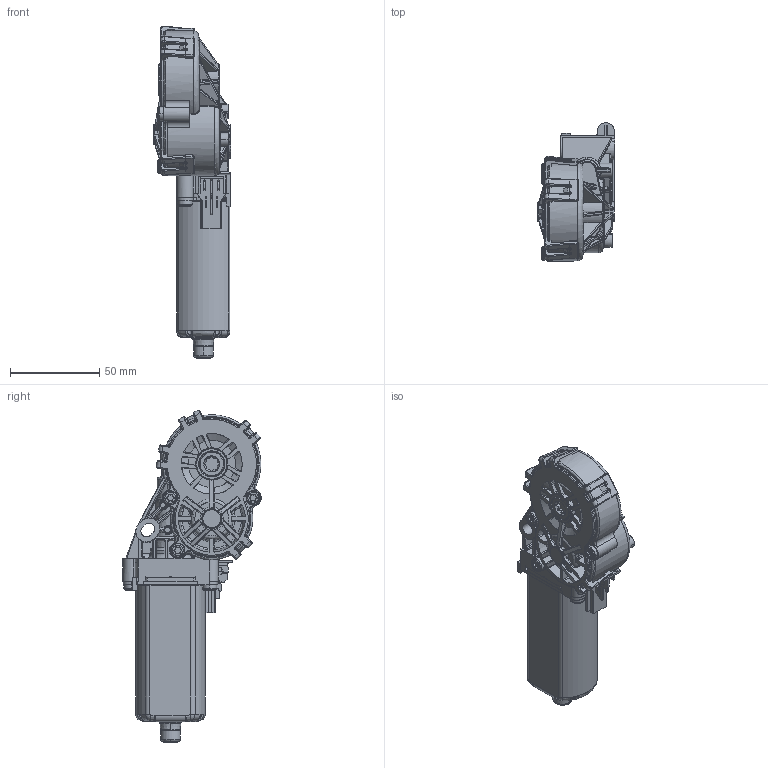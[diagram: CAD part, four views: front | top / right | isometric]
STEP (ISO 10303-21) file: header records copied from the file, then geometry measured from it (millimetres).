
FILE_DESCRIPTION(/* description */ (''),/* implementation_level */ '2;1');
FILE_NAME(/* name */ 'Hari.stp',/* time_stamp */ '2014-08-13T16:30:56+05:00',/* author */ (''),/* organization */ (''),/* preprocessor_version */ 'ST-DEVELOPER v11',/* originating_system */ 'SIEMENS PLM Software NX 7.5',/* authorisation */ '');
FILE_SCHEMA (('AUTOMOTIVE_DESIGN { 1 0 10303 214 1 1 1 1 }'));
Length unit declared in the file: millimetre
Products named in the file (1): rar321CD8rja
Bounding box: 43.25 x 77.54 x 185.83 mm (x, y, z)
Surface area: 43407 mm2
Topology: 9 solids, 2250 shells, 2306 faces, 12491 edges, 12353 vertices
Faces by surface type: cylinder 877, plane 624, revolution 335, bspline 304, cone 87, sphere 79
Entity records: 193274 total; most frequent: CARTESIAN_POINT 95182, ORIENTED_EDGE 12533, EDGE_CURVE 12400, VERTEX_POINT 12353, DIRECTION 11444, B_SPLINE_CURVE_WITH_KNOTS 6330, AXIS2_PLACEMENT_3D 3831, LINE 3447
